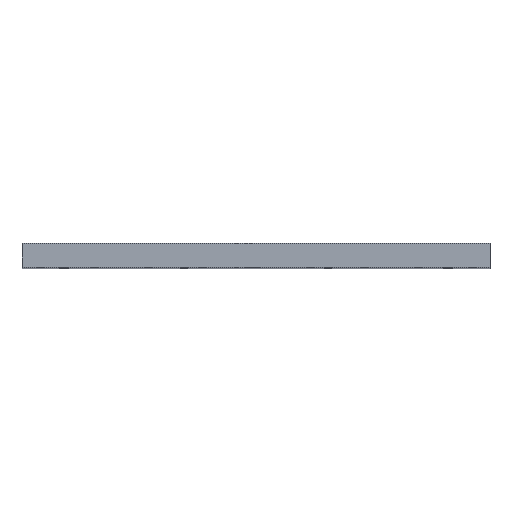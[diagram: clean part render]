
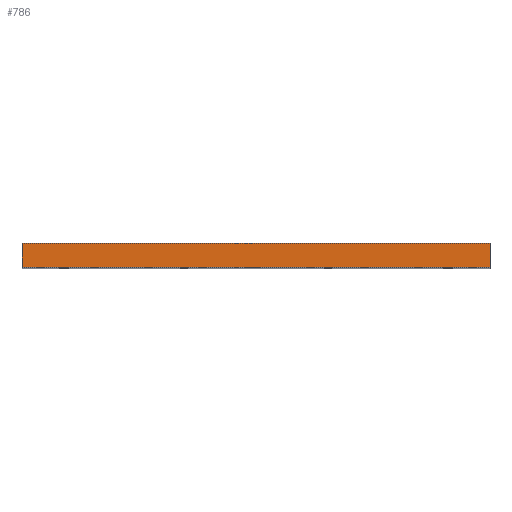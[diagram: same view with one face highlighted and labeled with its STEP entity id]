
A CAD part, top view. The second image highlights one B-rep face of the part: STEP entity #786.
In plain terms, the highlighted planar face has unit normal (0, 0, 1).
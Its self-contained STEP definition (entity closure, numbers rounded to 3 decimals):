
#6 = EDGE_LOOP ( 'NONE', ( #14, #1557, #748, #2178 ) ) ;
#14 = ORIENTED_EDGE ( 'NONE', *, *, #2051, .T. ) ;
#306 = CARTESIAN_POINT ( 'NONE',  ( 195., -10., 275. ) ) ;
#369 = EDGE_CURVE ( 'NONE', #2594, #1098, #741, .T. ) ;
#428 = CARTESIAN_POINT ( 'NONE',  ( -195., 10., 275. ) ) ;
#488 = VECTOR ( 'NONE', #2450, 1000. ) ;
#503 = FACE_OUTER_BOUND ( 'NONE', #6, .T. ) ;
#588 = LINE ( 'NONE', #428, #488 ) ;
#616 = DIRECTION ( 'NONE',  ( 0., 1., 0. ) ) ;
#648 = CARTESIAN_POINT ( 'NONE',  ( 195., 10., 275. ) ) ;
#672 = VECTOR ( 'NONE', #1741, 1000. ) ;
#737 = CARTESIAN_POINT ( 'NONE',  ( -195., -10., 275. ) ) ;
#741 = LINE ( 'NONE', #2869, #2181 ) ;
#748 = ORIENTED_EDGE ( 'NONE', *, *, #369, .F. ) ;
#786 = ADVANCED_FACE ( 'NONE', ( #503 ), #3484, .T. ) ;
#865 = VERTEX_POINT ( 'NONE', #648 ) ;
#1098 = VERTEX_POINT ( 'NONE', #3073 ) ;
#1557 = ORIENTED_EDGE ( 'NONE', *, *, #3339, .F. ) ;
#1693 = VERTEX_POINT ( 'NONE', #2601 ) ;
#1741 = DIRECTION ( 'NONE',  ( 0., 1., 0. ) ) ;
#1753 = DIRECTION ( 'NONE',  ( 1., 0., 0. ) ) ;
#2051 = EDGE_CURVE ( 'NONE', #1693, #865, #2204, .T. ) ;
#2178 = ORIENTED_EDGE ( 'NONE', *, *, #2282, .T. ) ;
#2181 = VECTOR ( 'NONE', #616, 1000. ) ;
#2204 = LINE ( 'NONE', #306, #672 ) ;
#2247 = VECTOR ( 'NONE', #3322, 1000. ) ;
#2282 = EDGE_CURVE ( 'NONE', #2594, #1693, #3037, .T. ) ;
#2450 = DIRECTION ( 'NONE',  ( 1., 0., 0. ) ) ;
#2594 = VERTEX_POINT ( 'NONE', #737 ) ;
#2601 = CARTESIAN_POINT ( 'NONE',  ( 195., -10., 275. ) ) ;
#2869 = CARTESIAN_POINT ( 'NONE',  ( -195., -10., 275. ) ) ;
#2995 = CARTESIAN_POINT ( 'NONE',  ( -195., -10., 275. ) ) ;
#3031 = CARTESIAN_POINT ( 'NONE',  ( -195., -10., 275. ) ) ;
#3037 = LINE ( 'NONE', #3031, #2247 ) ;
#3073 = CARTESIAN_POINT ( 'NONE',  ( -195., 10., 275. ) ) ;
#3194 = AXIS2_PLACEMENT_3D ( 'NONE', #2995, #3493, #1753 ) ;
#3322 = DIRECTION ( 'NONE',  ( 1., 0., 0. ) ) ;
#3339 = EDGE_CURVE ( 'NONE', #1098, #865, #588, .T. ) ;
#3484 = PLANE ( 'NONE',  #3194 ) ;
#3493 = DIRECTION ( 'NONE',  ( 0., 0., 1. ) ) ;
